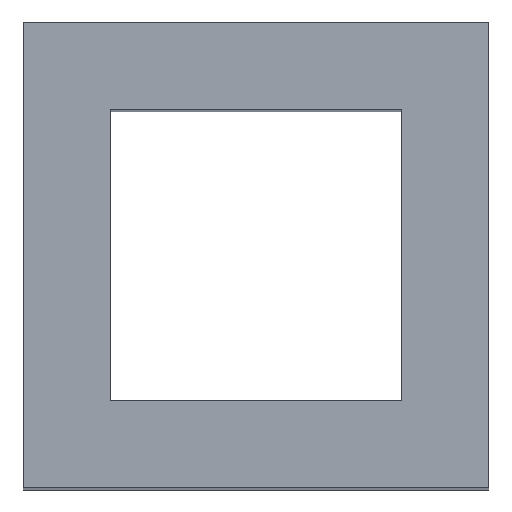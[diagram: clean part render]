
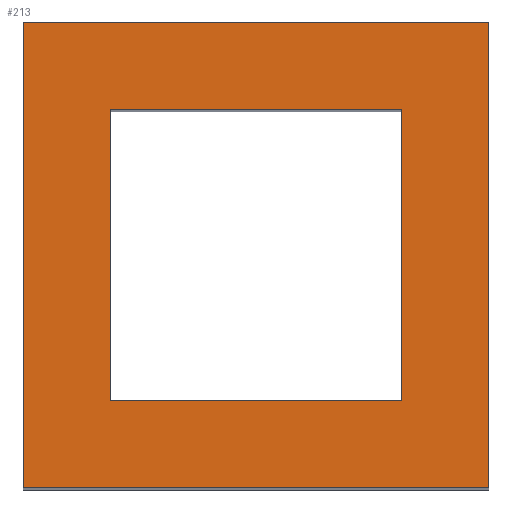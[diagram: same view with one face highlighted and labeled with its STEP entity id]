
A CAD part, top view. The second image highlights one B-rep face of the part: STEP entity #213.
In plain terms, the highlighted planar face has unit normal (0, 0, 1).
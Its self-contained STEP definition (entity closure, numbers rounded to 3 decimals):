
#24 = VERTEX_POINT('',#25);
#25 = CARTESIAN_POINT('',(-573.,-172.913,-55.));
#32 = PLANE('',#33);
#33 = AXIS2_PLACEMENT_3D('',#34,#35,#36);
#34 = CARTESIAN_POINT('',(-573.,-172.913,-102.));
#35 = DIRECTION('',(1.,0.,-0.));
#36 = DIRECTION('',(0.,0.,1.));
#44 = PLANE('',#45);
#45 = AXIS2_PLACEMENT_3D('',#46,#47,#48);
#46 = CARTESIAN_POINT('',(-573.,-172.913,-102.));
#47 = DIRECTION('',(-0.,1.,0.));
#48 = DIRECTION('',(0.,0.,1.));
#85 = VERTEX_POINT('',#86);
#86 = CARTESIAN_POINT('',(-573.,-156.913,-55.));
#100 = PLANE('',#101);
#101 = AXIS2_PLACEMENT_3D('',#102,#103,#104);
#102 = CARTESIAN_POINT('',(-573.,-156.913,-102.));
#103 = DIRECTION('',(-0.,1.,0.));
#104 = DIRECTION('',(0.,0.,1.));
#112 = EDGE_CURVE('',#24,#85,#113,.T.);
#113 = SURFACE_CURVE('',#114,(#118,#125),.PCURVE_S1.);
#114 = LINE('',#115,#116);
#115 = CARTESIAN_POINT('',(-573.,-172.913,-55.));
#116 = VECTOR('',#117,1.);
#117 = DIRECTION('',(-0.,1.,0.));
#118 = PCURVE('',#32,#119);
#119 = DEFINITIONAL_REPRESENTATION('',(#120),#124);
#120 = LINE('',#121,#122);
#121 = CARTESIAN_POINT('',(47.,0.));
#122 = VECTOR('',#123,1.);
#123 = DIRECTION('',(0.,-1.));
#124 = ( GEOMETRIC_REPRESENTATION_CONTEXT(2) 
PARAMETRIC_REPRESENTATION_CONTEXT() REPRESENTATION_CONTEXT('2D SPACE',''
  ) );
#125 = PCURVE('',#126,#131);
#126 = PLANE('',#127);
#127 = AXIS2_PLACEMENT_3D('',#128,#129,#130);
#128 = CARTESIAN_POINT('',(-573.,-172.913,-55.));
#129 = DIRECTION('',(0.,0.,1.));
#130 = DIRECTION('',(1.,0.,-0.));
#131 = DEFINITIONAL_REPRESENTATION('',(#132),#136);
#132 = LINE('',#133,#134);
#133 = CARTESIAN_POINT('',(0.,0.));
#134 = VECTOR('',#135,1.);
#135 = DIRECTION('',(0.,1.));
#136 = ( GEOMETRIC_REPRESENTATION_CONTEXT(2) 
PARAMETRIC_REPRESENTATION_CONTEXT() REPRESENTATION_CONTEXT('2D SPACE',''
  ) );
#165 = EDGE_CURVE('',#24,#166,#168,.T.);
#166 = VERTEX_POINT('',#167);
#167 = CARTESIAN_POINT('',(-557.,-172.913,-55.));
#168 = SURFACE_CURVE('',#169,(#173,#180),.PCURVE_S1.);
#169 = LINE('',#170,#171);
#170 = CARTESIAN_POINT('',(-573.,-172.913,-55.));
#171 = VECTOR('',#172,1.);
#172 = DIRECTION('',(1.,0.,-0.));
#173 = PCURVE('',#44,#174);
#174 = DEFINITIONAL_REPRESENTATION('',(#175),#179);
#175 = LINE('',#176,#177);
#176 = CARTESIAN_POINT('',(47.,0.));
#177 = VECTOR('',#178,1.);
#178 = DIRECTION('',(0.,1.));
#179 = ( GEOMETRIC_REPRESENTATION_CONTEXT(2) 
PARAMETRIC_REPRESENTATION_CONTEXT() REPRESENTATION_CONTEXT('2D SPACE',''
  ) );
#180 = PCURVE('',#126,#181);
#181 = DEFINITIONAL_REPRESENTATION('',(#182),#186);
#182 = LINE('',#183,#184);
#183 = CARTESIAN_POINT('',(0.,0.));
#184 = VECTOR('',#185,1.);
#185 = DIRECTION('',(1.,0.));
#186 = ( GEOMETRIC_REPRESENTATION_CONTEXT(2) 
PARAMETRIC_REPRESENTATION_CONTEXT() REPRESENTATION_CONTEXT('2D SPACE',''
  ) );
#202 = PLANE('',#203);
#203 = AXIS2_PLACEMENT_3D('',#204,#205,#206);
#204 = CARTESIAN_POINT('',(-557.,-172.913,-102.));
#205 = DIRECTION('',(1.,0.,-0.));
#206 = DIRECTION('',(0.,0.,1.));
#213 = ADVANCED_FACE('',(#214,#262),#126,.T.);
#214 = FACE_BOUND('',#215,.T.);
#215 = EDGE_LOOP('',(#216,#217,#218,#241));
#216 = ORIENTED_EDGE('',*,*,#112,.F.);
#217 = ORIENTED_EDGE('',*,*,#165,.T.);
#218 = ORIENTED_EDGE('',*,*,#219,.T.);
#219 = EDGE_CURVE('',#166,#220,#222,.T.);
#220 = VERTEX_POINT('',#221);
#221 = CARTESIAN_POINT('',(-557.,-156.913,-55.));
#222 = SURFACE_CURVE('',#223,(#227,#234),.PCURVE_S1.);
#223 = LINE('',#224,#225);
#224 = CARTESIAN_POINT('',(-557.,-172.913,-55.));
#225 = VECTOR('',#226,1.);
#226 = DIRECTION('',(-0.,1.,0.));
#227 = PCURVE('',#126,#228);
#228 = DEFINITIONAL_REPRESENTATION('',(#229),#233);
#229 = LINE('',#230,#231);
#230 = CARTESIAN_POINT('',(16.,0.));
#231 = VECTOR('',#232,1.);
#232 = DIRECTION('',(0.,1.));
#233 = ( GEOMETRIC_REPRESENTATION_CONTEXT(2) 
PARAMETRIC_REPRESENTATION_CONTEXT() REPRESENTATION_CONTEXT('2D SPACE',''
  ) );
#234 = PCURVE('',#202,#235);
#235 = DEFINITIONAL_REPRESENTATION('',(#236),#240);
#236 = LINE('',#237,#238);
#237 = CARTESIAN_POINT('',(47.,0.));
#238 = VECTOR('',#239,1.);
#239 = DIRECTION('',(0.,-1.));
#240 = ( GEOMETRIC_REPRESENTATION_CONTEXT(2) 
PARAMETRIC_REPRESENTATION_CONTEXT() REPRESENTATION_CONTEXT('2D SPACE',''
  ) );
#241 = ORIENTED_EDGE('',*,*,#242,.F.);
#242 = EDGE_CURVE('',#85,#220,#243,.T.);
#243 = SURFACE_CURVE('',#244,(#248,#255),.PCURVE_S1.);
#244 = LINE('',#245,#246);
#245 = CARTESIAN_POINT('',(-573.,-156.913,-55.));
#246 = VECTOR('',#247,1.);
#247 = DIRECTION('',(1.,0.,-0.));
#248 = PCURVE('',#126,#249);
#249 = DEFINITIONAL_REPRESENTATION('',(#250),#254);
#250 = LINE('',#251,#252);
#251 = CARTESIAN_POINT('',(0.,16.));
#252 = VECTOR('',#253,1.);
#253 = DIRECTION('',(1.,0.));
#254 = ( GEOMETRIC_REPRESENTATION_CONTEXT(2) 
PARAMETRIC_REPRESENTATION_CONTEXT() REPRESENTATION_CONTEXT('2D SPACE',''
  ) );
#255 = PCURVE('',#100,#256);
#256 = DEFINITIONAL_REPRESENTATION('',(#257),#261);
#257 = LINE('',#258,#259);
#258 = CARTESIAN_POINT('',(47.,0.));
#259 = VECTOR('',#260,1.);
#260 = DIRECTION('',(0.,1.));
#261 = ( GEOMETRIC_REPRESENTATION_CONTEXT(2) 
PARAMETRIC_REPRESENTATION_CONTEXT() REPRESENTATION_CONTEXT('2D SPACE',''
  ) );
#262 = FACE_BOUND('',#263,.T.);
#263 = EDGE_LOOP('',(#264,#294,#322,#350));
#264 = ORIENTED_EDGE('',*,*,#265,.T.);
#265 = EDGE_CURVE('',#266,#268,#270,.T.);
#266 = VERTEX_POINT('',#267);
#267 = CARTESIAN_POINT('',(-560.,-169.913,-55.));
#268 = VERTEX_POINT('',#269);
#269 = CARTESIAN_POINT('',(-570.,-169.913,-55.));
#270 = SURFACE_CURVE('',#271,(#275,#282),.PCURVE_S1.);
#271 = LINE('',#272,#273);
#272 = CARTESIAN_POINT('',(-571.5,-169.913,-55.));
#273 = VECTOR('',#274,1.);
#274 = DIRECTION('',(-1.,-0.,0.));
#275 = PCURVE('',#126,#276);
#276 = DEFINITIONAL_REPRESENTATION('',(#277),#281);
#277 = LINE('',#278,#279);
#278 = CARTESIAN_POINT('',(1.5,3.));
#279 = VECTOR('',#280,1.);
#280 = DIRECTION('',(-1.,0.));
#281 = ( GEOMETRIC_REPRESENTATION_CONTEXT(2) 
PARAMETRIC_REPRESENTATION_CONTEXT() REPRESENTATION_CONTEXT('2D SPACE',''
  ) );
#282 = PCURVE('',#283,#288);
#283 = PLANE('',#284);
#284 = AXIS2_PLACEMENT_3D('',#285,#286,#287);
#285 = CARTESIAN_POINT('',(-570.,-169.913,-103.));
#286 = DIRECTION('',(-0.,1.,0.));
#287 = DIRECTION('',(0.,0.,1.));
#288 = DEFINITIONAL_REPRESENTATION('',(#289),#293);
#289 = LINE('',#290,#291);
#290 = CARTESIAN_POINT('',(48.,-1.5));
#291 = VECTOR('',#292,1.);
#292 = DIRECTION('',(0.,-1.));
#293 = ( GEOMETRIC_REPRESENTATION_CONTEXT(2) 
PARAMETRIC_REPRESENTATION_CONTEXT() REPRESENTATION_CONTEXT('2D SPACE',''
  ) );
#294 = ORIENTED_EDGE('',*,*,#295,.T.);
#295 = EDGE_CURVE('',#268,#296,#298,.T.);
#296 = VERTEX_POINT('',#297);
#297 = CARTESIAN_POINT('',(-570.,-159.913,-55.));
#298 = SURFACE_CURVE('',#299,(#303,#310),.PCURVE_S1.);
#299 = LINE('',#300,#301);
#300 = CARTESIAN_POINT('',(-570.,-171.413,-55.));
#301 = VECTOR('',#302,1.);
#302 = DIRECTION('',(-0.,1.,0.));
#303 = PCURVE('',#126,#304);
#304 = DEFINITIONAL_REPRESENTATION('',(#305),#309);
#305 = LINE('',#306,#307);
#306 = CARTESIAN_POINT('',(3.,1.5));
#307 = VECTOR('',#308,1.);
#308 = DIRECTION('',(0.,1.));
#309 = ( GEOMETRIC_REPRESENTATION_CONTEXT(2) 
PARAMETRIC_REPRESENTATION_CONTEXT() REPRESENTATION_CONTEXT('2D SPACE',''
  ) );
#310 = PCURVE('',#311,#316);
#311 = PLANE('',#312);
#312 = AXIS2_PLACEMENT_3D('',#313,#314,#315);
#313 = CARTESIAN_POINT('',(-570.,-169.913,-103.));
#314 = DIRECTION('',(1.,0.,-0.));
#315 = DIRECTION('',(0.,0.,1.));
#316 = DEFINITIONAL_REPRESENTATION('',(#317),#321);
#317 = LINE('',#318,#319);
#318 = CARTESIAN_POINT('',(48.,1.5));
#319 = VECTOR('',#320,1.);
#320 = DIRECTION('',(0.,-1.));
#321 = ( GEOMETRIC_REPRESENTATION_CONTEXT(2) 
PARAMETRIC_REPRESENTATION_CONTEXT() REPRESENTATION_CONTEXT('2D SPACE',''
  ) );
#322 = ORIENTED_EDGE('',*,*,#323,.F.);
#323 = EDGE_CURVE('',#324,#296,#326,.T.);
#324 = VERTEX_POINT('',#325);
#325 = CARTESIAN_POINT('',(-560.,-159.913,-55.));
#326 = SURFACE_CURVE('',#327,(#331,#338),.PCURVE_S1.);
#327 = LINE('',#328,#329);
#328 = CARTESIAN_POINT('',(-571.5,-159.913,-55.));
#329 = VECTOR('',#330,1.);
#330 = DIRECTION('',(-1.,-0.,0.));
#331 = PCURVE('',#126,#332);
#332 = DEFINITIONAL_REPRESENTATION('',(#333),#337);
#333 = LINE('',#334,#335);
#334 = CARTESIAN_POINT('',(1.5,13.));
#335 = VECTOR('',#336,1.);
#336 = DIRECTION('',(-1.,0.));
#337 = ( GEOMETRIC_REPRESENTATION_CONTEXT(2) 
PARAMETRIC_REPRESENTATION_CONTEXT() REPRESENTATION_CONTEXT('2D SPACE',''
  ) );
#338 = PCURVE('',#339,#344);
#339 = PLANE('',#340);
#340 = AXIS2_PLACEMENT_3D('',#341,#342,#343);
#341 = CARTESIAN_POINT('',(-570.,-159.913,-103.));
#342 = DIRECTION('',(-0.,1.,0.));
#343 = DIRECTION('',(0.,0.,1.));
#344 = DEFINITIONAL_REPRESENTATION('',(#345),#349);
#345 = LINE('',#346,#347);
#346 = CARTESIAN_POINT('',(48.,-1.5));
#347 = VECTOR('',#348,1.);
#348 = DIRECTION('',(0.,-1.));
#349 = ( GEOMETRIC_REPRESENTATION_CONTEXT(2) 
PARAMETRIC_REPRESENTATION_CONTEXT() REPRESENTATION_CONTEXT('2D SPACE',''
  ) );
#350 = ORIENTED_EDGE('',*,*,#351,.F.);
#351 = EDGE_CURVE('',#266,#324,#352,.T.);
#352 = SURFACE_CURVE('',#353,(#357,#364),.PCURVE_S1.);
#353 = LINE('',#354,#355);
#354 = CARTESIAN_POINT('',(-560.,-171.413,-55.));
#355 = VECTOR('',#356,1.);
#356 = DIRECTION('',(-0.,1.,0.));
#357 = PCURVE('',#126,#358);
#358 = DEFINITIONAL_REPRESENTATION('',(#359),#363);
#359 = LINE('',#360,#361);
#360 = CARTESIAN_POINT('',(13.,1.5));
#361 = VECTOR('',#362,1.);
#362 = DIRECTION('',(0.,1.));
#363 = ( GEOMETRIC_REPRESENTATION_CONTEXT(2) 
PARAMETRIC_REPRESENTATION_CONTEXT() REPRESENTATION_CONTEXT('2D SPACE',''
  ) );
#364 = PCURVE('',#365,#370);
#365 = PLANE('',#366);
#366 = AXIS2_PLACEMENT_3D('',#367,#368,#369);
#367 = CARTESIAN_POINT('',(-560.,-169.913,-103.));
#368 = DIRECTION('',(1.,0.,-0.));
#369 = DIRECTION('',(0.,0.,1.));
#370 = DEFINITIONAL_REPRESENTATION('',(#371),#375);
#371 = LINE('',#372,#373);
#372 = CARTESIAN_POINT('',(48.,1.5));
#373 = VECTOR('',#374,1.);
#374 = DIRECTION('',(0.,-1.));
#375 = ( GEOMETRIC_REPRESENTATION_CONTEXT(2) 
PARAMETRIC_REPRESENTATION_CONTEXT() REPRESENTATION_CONTEXT('2D SPACE',''
  ) );
